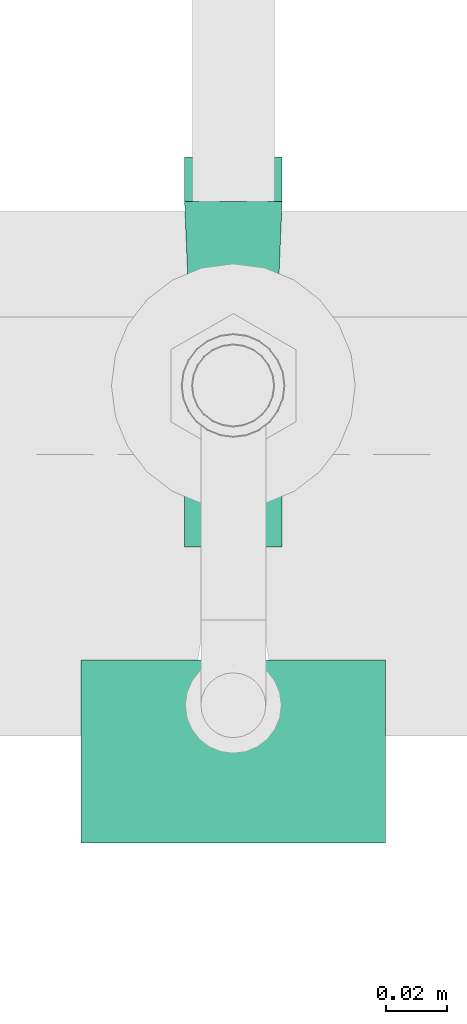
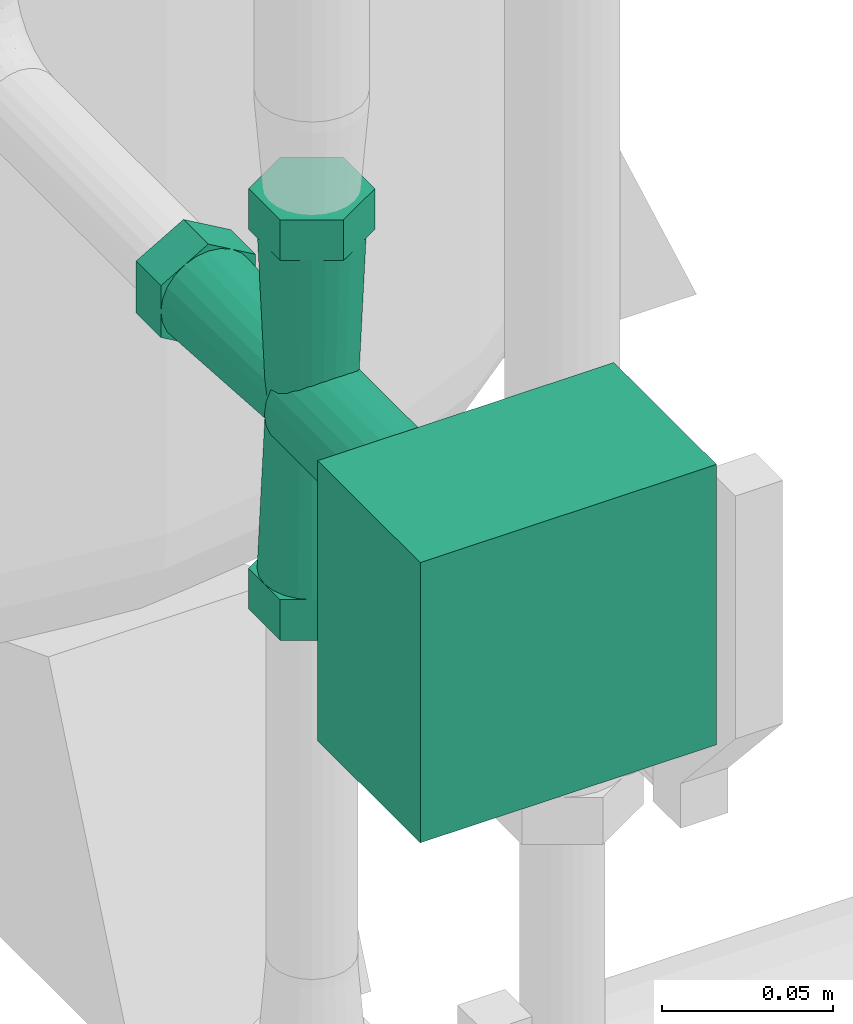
# One storey, part 103 of 374: 1 flow controller.
"""IFC2X3 building model written with IfcOpenShell, lengths in metres."""

from ifc_helpers import new_model, si_unit, direction, origin, place, context, subcontext, project, spatial, open_shell, surface_model, source, transform, mapped, element, save


model = new_model("IFC2X3")

# Units and contexts
model_context = context("Model", 3, precision=1e-05, world=origin(), true_north=direction((-0.4480736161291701, 0.8939966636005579)))
body_context = subcontext(model_context, "Body", "Model", "MODEL_VIEW")
ifc_project = project(units=[si_unit("LENGTHUNIT", "METRE"), si_unit("AREAUNIT", "SQUARE_METRE"), si_unit("VOLUMEUNIT", "CUBIC_METRE"), si_unit("PLANEANGLEUNIT", "RADIAN"), si_unit("THERMODYNAMICTEMPERATUREUNIT", "KELVIN"), si_unit("MASSUNIT", "GRAM", prefix="KILO"), si_unit("TIMEUNIT", "SECOND")], contexts=[model_context])

# Site, building, storey
site_placement = place(None, origin())
site = spatial("IfcSite", under=ifc_project, at=site_placement, Name="Site 1", CompositionType="ELEMENT")
building_placement = place(site_placement, origin())
building = spatial("IfcBuilding", under=site, at=building_placement, Name="Undefined", CompositionType="ELEMENT")
storey_placement = place(building_placement, origin())
storey = spatial("IfcBuildingStorey", under=building, at=storey_placement, Name="Rez de chauss\x8ee", CompositionType="ELEMENT", Elevation=0.0)

# Flow controller
shared_shape = source(origin(), body_context, "Body", "SurfaceModel", [
    surface_model("IfcFaceBasedSurfaceModel", [(0.0, 0.09999999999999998, 0.0), (0.0, 0.0, 0.0), (0.10000000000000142, 8.8817842e-16, 1.776356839e-15), (0.10000000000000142, 0.09999999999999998, 0.0), (0.10000000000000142, 0.0, 0.05999999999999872), (0.10000000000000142, 0.09999999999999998, 0.05999999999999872), (0.0, 0.0, 0.05999999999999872), (0.0, 0.09999999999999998, 0.05999999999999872), (0.03399999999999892, 0.125, -0.0992376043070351), (0.03399999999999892, 0.125, -0.0807623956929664), (0.03399999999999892, 0.11050000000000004, -0.0807623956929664), (0.03399999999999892, 0.11050000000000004, -0.0992376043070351), (0.05000000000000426, 0.125, -0.10847520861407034), (0.05000000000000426, 0.11050000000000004, -0.10847520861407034), (0.0660000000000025, 0.125, -0.0992376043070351), (0.0660000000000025, 0.11050000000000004, -0.0992376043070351), (0.0660000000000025, 0.125, -0.0807623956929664), (0.0660000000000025, 0.11050000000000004, -0.0807623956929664), (0.05000000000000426, 0.125, -0.07152479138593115), (0.05000000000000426, 0.11050000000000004, -0.07152479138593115), (0.05000000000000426, 0.11050000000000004, -0.10600000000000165), (0.054141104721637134, 0.11050000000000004, -0.10545481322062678), (0.05348111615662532, 0.04999999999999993, -0.10299170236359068), (0.05000000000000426, 0.04999999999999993, -0.10345000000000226), (0.05799999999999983, 0.11050000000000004, -0.10385640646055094), (0.056725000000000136, 0.04999999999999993, -0.10164804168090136), (0.061313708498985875, 0.11050000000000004, -0.10131370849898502), (0.05951058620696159, 0.04999999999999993, -0.09951058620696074), (0.0638564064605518, 0.11050000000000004, -0.09800000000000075), (0.06164804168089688, 0.04999999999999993, -0.09672500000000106), (0.06545481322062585, 0.11050000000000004, -0.09414110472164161), (0.06299170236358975, 0.04999999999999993, -0.09348111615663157), (0.0660000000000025, 0.11050000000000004, -0.09000000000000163), (0.06344999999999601, 0.04999999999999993, -0.09000000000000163), (0.06545481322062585, 0.11050000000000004, -0.08585889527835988), (0.06299170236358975, 0.04999999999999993, -0.0865188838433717), (0.0638564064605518, 0.11050000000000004, -0.08200000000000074), (0.06164804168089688, 0.04999999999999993, -0.08327500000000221), (0.061313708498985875, 0.11050000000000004, -0.07868629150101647), (0.05951058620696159, 0.04999999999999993, -0.08048941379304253), (0.05799999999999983, 0.11050000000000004, -0.07614359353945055), (0.056725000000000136, 0.04999999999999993, -0.07835195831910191), (0.054141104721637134, 0.11050000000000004, -0.07454518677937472), (0.05348111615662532, 0.04999999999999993, -0.07700829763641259), (0.05000000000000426, 0.11050000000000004, -0.07400000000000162), (0.05000000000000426, 0.04999999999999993, -0.07655000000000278), (0.04585889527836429, 0.11050000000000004, -0.07454518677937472), (0.046518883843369, 0.04999999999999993, -0.07700829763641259), (0.04200000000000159, 0.11050000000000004, -0.07614359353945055), (0.043275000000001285, 0.04999999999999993, -0.07835195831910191), (0.038686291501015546, 0.11050000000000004, -0.07868629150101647), (0.04048941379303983, 0.04999999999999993, -0.08048941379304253), (0.036143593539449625, 0.11050000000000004, -0.08200000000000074), (0.038351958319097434, 0.04999999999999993, -0.08327500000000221), (0.03454518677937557, 0.11050000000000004, -0.08585889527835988), (0.03700829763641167, 0.04999999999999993, -0.0865188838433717), (0.03399999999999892, 0.11050000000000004, -0.09000000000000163), (0.036549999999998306, 0.04999999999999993, -0.09000000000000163), (0.03454518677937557, 0.11050000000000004, -0.09414110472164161), (0.03700829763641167, 0.04999999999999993, -0.09348111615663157), (0.036143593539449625, 0.11050000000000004, -0.09800000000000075), (0.038351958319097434, 0.04999999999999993, -0.09672500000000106), (0.038686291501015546, 0.11050000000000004, -0.10131370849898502), (0.04048941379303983, 0.04999999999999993, -0.09951058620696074), (0.04200000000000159, 0.11050000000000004, -0.10385640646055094), (0.043275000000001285, 0.04999999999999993, -0.10164804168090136), (0.04585889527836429, 0.11050000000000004, -0.10545481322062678), (0.046518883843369, 0.04999999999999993, -0.10299170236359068), (0.054141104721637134, -0.010500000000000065, -0.105454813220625), (0.04999999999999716, -0.010500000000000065, -0.10600000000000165), (0.057999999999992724, -0.010500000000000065, -0.10385640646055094), (0.06131370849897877, -0.010500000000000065, -0.10131370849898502), (0.06385640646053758, -0.010500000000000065, -0.09800000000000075), (0.06545481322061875, -0.010500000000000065, -0.09414110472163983), (0.06599999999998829, -0.010500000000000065, -0.09000000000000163), (0.06545481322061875, -0.010500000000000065, -0.08585889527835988), (0.06385640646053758, -0.010500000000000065, -0.08199999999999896), (0.06131370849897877, -0.010500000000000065, -0.0786862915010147), (0.057999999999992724, -0.010500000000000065, -0.07614359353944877), (0.054141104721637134, -0.010500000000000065, -0.07454518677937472), (0.04999999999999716, -0.010500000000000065, -0.07399999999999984), (0.045858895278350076, -0.010500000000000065, -0.07454518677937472), (0.041999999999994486, -0.010500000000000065, -0.07614359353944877), (0.03868629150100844, -0.010500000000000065, -0.0786862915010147), (0.03614359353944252, -0.010500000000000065, -0.08199999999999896), (0.034545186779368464, -0.010500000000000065, -0.08585889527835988), (0.033999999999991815, -0.010500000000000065, -0.09000000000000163), (0.034545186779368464, -0.010500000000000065, -0.09414110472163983), (0.03614359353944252, -0.010500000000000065, -0.09800000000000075), (0.03868629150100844, -0.010500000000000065, -0.10131370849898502), (0.041999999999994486, -0.010500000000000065, -0.10385640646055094), (0.045858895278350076, -0.010500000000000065, -0.105454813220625), (0.03399999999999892, -0.010500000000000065, -0.0992376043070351), (0.03399999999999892, -0.010500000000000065, -0.0807623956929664), (0.03399999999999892, -0.025000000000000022, -0.0807623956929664), (0.03399999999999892, -0.025000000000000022, -0.0992376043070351), (0.05000000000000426, -0.010500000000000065, -0.10847520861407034), (0.05000000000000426, -0.025000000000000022, -0.10847520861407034), (0.0660000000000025, -0.010500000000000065, -0.0992376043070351), (0.0660000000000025, -0.025000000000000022, -0.0992376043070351), (0.0660000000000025, -0.010500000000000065, -0.0807623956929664), (0.0660000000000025, -0.025000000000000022, -0.0807623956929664), (0.05000000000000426, -0.010500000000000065, -0.07152479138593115), (0.05000000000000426, -0.025000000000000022, -0.07152479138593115), (0.0660000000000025, 0.04999999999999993, -0.09000000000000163), (0.06545481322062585, 0.054141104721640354, -0.09000000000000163), (0.06545481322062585, 0.054141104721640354, -0.03700000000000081), (0.0660000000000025, 0.04999999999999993, -0.03700000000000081), (0.0638564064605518, 0.05799999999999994, -0.09000000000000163), (0.0638564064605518, 0.05799999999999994, -0.03700000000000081), (0.061313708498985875, 0.061313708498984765, -0.09000000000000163), (0.061313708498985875, 0.061313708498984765, -0.03700000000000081), (0.05799999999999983, 0.06385640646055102, -0.09000000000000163), (0.05799999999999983, 0.06385640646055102, -0.03700000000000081), (0.054141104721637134, 0.06545481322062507, -0.09000000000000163), (0.054141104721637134, 0.06545481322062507, -0.03700000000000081), (0.05000000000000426, 0.06599999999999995, -0.09000000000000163), (0.05000000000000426, 0.06599999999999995, -0.03700000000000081), (0.04585889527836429, 0.06545481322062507, -0.09000000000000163), (0.04585889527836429, 0.06545481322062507, -0.03700000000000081), (0.04200000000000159, 0.06385640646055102, -0.09000000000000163), (0.04200000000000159, 0.06385640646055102, -0.03700000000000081), (0.038686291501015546, 0.061313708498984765, -0.09000000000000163), (0.038686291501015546, 0.061313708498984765, -0.03700000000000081), (0.036143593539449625, 0.05799999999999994, -0.09000000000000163), (0.036143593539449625, 0.05799999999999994, -0.03700000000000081), (0.03454518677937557, 0.054141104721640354, -0.09000000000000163), (0.03454518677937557, 0.054141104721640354, -0.03700000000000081), (0.03399999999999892, 0.04999999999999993, -0.09000000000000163), (0.03399999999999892, 0.04999999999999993, -0.03700000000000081), (0.03454518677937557, 0.045858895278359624, -0.09000000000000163), (0.03454518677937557, 0.045858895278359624, -0.03700000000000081), (0.036143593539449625, 0.04200000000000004, -0.09000000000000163), (0.036143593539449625, 0.04200000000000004, -0.03700000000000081), (0.038686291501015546, 0.03868629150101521, -0.09000000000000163), (0.038686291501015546, 0.03868629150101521, -0.03700000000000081), (0.04200000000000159, 0.03614359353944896, -0.09000000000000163), (0.04200000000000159, 0.03614359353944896, -0.03700000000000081), (0.04585889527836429, 0.0345451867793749, -0.09000000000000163), (0.04585889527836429, 0.0345451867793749, -0.03700000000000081), (0.05000000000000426, 0.03400000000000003, -0.09000000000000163), (0.05000000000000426, 0.03400000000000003, -0.03700000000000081), (0.054141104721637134, 0.0345451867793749, -0.09000000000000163), (0.054141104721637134, 0.0345451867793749, -0.03700000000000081), (0.05799999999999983, 0.03614359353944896, -0.09000000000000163), (0.05799999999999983, 0.03614359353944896, -0.03700000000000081), (0.061313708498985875, 0.03868629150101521, -0.09000000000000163), (0.061313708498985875, 0.03868629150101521, -0.03700000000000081), (0.0638564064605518, 0.04200000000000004, -0.09000000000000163), (0.0638564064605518, 0.04200000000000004, -0.03700000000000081), (0.06545481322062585, 0.045858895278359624, -0.09000000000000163), (0.06545481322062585, 0.045858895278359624, -0.03700000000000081), (0.05000000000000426, 0.04999999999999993, -0.09000000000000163), (0.05000000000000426, 0.04999999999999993, -0.03700000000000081), (0.051600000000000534, 0.04999999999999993, -0.03700000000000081), (0.051131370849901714, 0.051131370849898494, -0.03700000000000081), (0.051131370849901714, 0.051131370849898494, 0.0), (0.051600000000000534, 0.04999999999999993, 0.0), (0.05000000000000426, 0.05159999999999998, -0.03700000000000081), (0.05000000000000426, 0.05159999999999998, 0.0), (0.04886862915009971, 0.051131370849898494, -0.03700000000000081), (0.04886862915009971, 0.051131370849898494, 0.0), (0.04840000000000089, 0.04999999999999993, -0.03700000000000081), (0.04840000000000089, 0.04999999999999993, 0.0), (0.04886862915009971, 0.048868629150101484, -0.03700000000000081), (0.04886862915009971, 0.048868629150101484, 0.0), (0.05000000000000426, 0.0484, -0.03700000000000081), (0.05000000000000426, 0.0484, 0.0), (0.051131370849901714, 0.048868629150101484, -0.03700000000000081), (0.051131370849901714, 0.048868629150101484, 0.0), (0.05000000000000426, 0.04999999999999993, 0.0), (0.05000000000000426, 0.06345, -0.09000000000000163), (0.053481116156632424, 0.06299170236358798, -0.09000000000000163), (0.054141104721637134, 0.06545481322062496, -0.15050000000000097), (0.04999999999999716, 0.06599999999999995, -0.15050000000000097), (0.056725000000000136, 0.06164804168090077, -0.09000000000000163), (0.057999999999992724, 0.06385640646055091, -0.15050000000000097), (0.05951058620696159, 0.05951058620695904, -0.09000000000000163), (0.06131370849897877, 0.061313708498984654, -0.15050000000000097), (0.06164804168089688, 0.056725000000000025, -0.09000000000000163), (0.06385640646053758, 0.05799999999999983, -0.15050000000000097), (0.06299170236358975, 0.05348111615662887, -0.09000000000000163), (0.06545481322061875, 0.05414110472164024, -0.15050000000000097), (0.06599999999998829, 0.04999999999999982, -0.15050000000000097), (0.06299170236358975, 0.046518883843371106, -0.09000000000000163), (0.06545481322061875, 0.04585889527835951, -0.15050000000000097), (0.06164804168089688, 0.04327499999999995, -0.09000000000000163), (0.06385640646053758, 0.041999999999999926, -0.15050000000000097), (0.05951058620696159, 0.04048941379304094, -0.09000000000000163), (0.06131370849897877, 0.0386862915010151, -0.15050000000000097), (0.056725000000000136, 0.03835195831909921, -0.09000000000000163), (0.057999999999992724, 0.03614359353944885, -0.15050000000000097), (0.053481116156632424, 0.037008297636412, -0.09000000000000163), (0.054141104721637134, 0.03454518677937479, -0.15050000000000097), (0.05000000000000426, 0.03654999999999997, -0.09000000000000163), (0.04999999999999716, 0.03399999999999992, -0.15050000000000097), (0.046518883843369, 0.037008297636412, -0.09000000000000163), (0.045858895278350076, 0.03454518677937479, -0.15050000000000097), (0.043275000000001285, 0.03835195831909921, -0.09000000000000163), (0.041999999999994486, 0.03614359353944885, -0.15050000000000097), (0.04048941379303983, 0.04048941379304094, -0.09000000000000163), (0.03868629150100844, 0.0386862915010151, -0.15050000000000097), (0.03835195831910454, 0.04327499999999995, -0.09000000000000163), (0.03614359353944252, 0.041999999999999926, -0.15050000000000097), (0.03700829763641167, 0.046518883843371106, -0.09000000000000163), (0.034545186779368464, 0.04585889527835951, -0.15050000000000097), (0.033999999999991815, 0.04999999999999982, -0.15050000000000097), (0.03700829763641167, 0.05348111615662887, -0.09000000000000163), (0.034545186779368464, 0.05414110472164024, -0.15050000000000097), (0.03835195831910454, 0.056725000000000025, -0.09000000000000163), (0.03614359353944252, 0.05799999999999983, -0.15050000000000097), (0.04048941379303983, 0.05951058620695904, -0.09000000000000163), (0.03868629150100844, 0.061313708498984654, -0.15050000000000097), (0.043275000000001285, 0.06164804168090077, -0.09000000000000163), (0.041999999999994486, 0.06385640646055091, -0.15050000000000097), (0.046518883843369, 0.06299170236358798, -0.09000000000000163), (0.045858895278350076, 0.06545481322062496, -0.15050000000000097), (0.03399999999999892, 0.040762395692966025, -0.15050000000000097), (0.05000000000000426, 0.031524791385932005, -0.15050000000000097), (0.05000000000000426, 0.031524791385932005, -0.16500000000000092), (0.03399999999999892, 0.040762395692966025, -0.16500000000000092), (0.03399999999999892, 0.05923760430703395, -0.15050000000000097), (0.03399999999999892, 0.05923760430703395, -0.16500000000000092), (0.05000000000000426, 0.06847520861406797, -0.15050000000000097), (0.05000000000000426, 0.06847520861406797, -0.16500000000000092), (0.0660000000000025, 0.05923760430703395, -0.15050000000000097), (0.0660000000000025, 0.05923760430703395, -0.16500000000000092), (0.0660000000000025, 0.040762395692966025, -0.15050000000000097), (0.0660000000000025, 0.040762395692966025, -0.16500000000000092)], [open_shell([[[0, 1, 2, 3]], [[3, 2, 4, 5]], [[5, 4, 6, 7]], [[7, 6, 1, 0]], [[0, 3, 5, 7]], [[6, 4, 2, 1]], [[8, 9, 10, 11]], [[12, 8, 11, 13]], [[14, 12, 13, 15]], [[16, 14, 15, 17]], [[18, 16, 17, 19]], [[9, 18, 19, 10]], [[9, 8, 12]], [[9, 12, 14]], [[9, 14, 16]], [[9, 16, 18]], [[10, 13, 11]], [[10, 15, 13]], [[10, 17, 15]], [[10, 19, 17]], [[20, 21, 22, 23]], [[21, 24, 25, 22]], [[24, 26, 27, 25]], [[26, 28, 29, 27]], [[28, 30, 31, 29]], [[30, 32, 33, 31]], [[32, 34, 35, 33]], [[34, 36, 37, 35]], [[36, 38, 39, 37]], [[38, 40, 41, 39]], [[40, 42, 43, 41]], [[42, 44, 45, 43]], [[44, 46, 47, 45]], [[46, 48, 49, 47]], [[48, 50, 51, 49]], [[50, 52, 53, 51]], [[52, 54, 55, 53]], [[54, 56, 57, 55]], [[56, 58, 59, 57]], [[58, 60, 61, 59]], [[60, 62, 63, 61]], [[62, 64, 65, 63]], [[64, 66, 67, 65]], [[66, 20, 23, 67]], [[23, 22, 68, 69]], [[22, 25, 70, 68]], [[25, 27, 71, 70]], [[27, 29, 72, 71]], [[29, 31, 73, 72]], [[31, 33, 74, 73]], [[33, 35, 75, 74]], [[35, 37, 76, 75]], [[37, 39, 77, 76]], [[39, 41, 78, 77]], [[41, 43, 79, 78]], [[43, 45, 80, 79]], [[45, 47, 81, 80]], [[47, 49, 82, 81]], [[49, 51, 83, 82]], [[51, 53, 84, 83]], [[53, 55, 85, 84]], [[55, 57, 86, 85]], [[57, 59, 87, 86]], [[59, 61, 88, 87]], [[61, 63, 89, 88]], [[63, 65, 90, 89]], [[65, 67, 91, 90]], [[67, 23, 69, 91]], [[92, 93, 94, 95]], [[96, 92, 95, 97]], [[98, 96, 97, 99]], [[100, 98, 99, 101]], [[102, 100, 101, 103]], [[93, 102, 103, 94]], [[93, 92, 96]], [[93, 96, 98]], [[93, 98, 100]], [[93, 100, 102]], [[94, 97, 95]], [[94, 99, 97]], [[94, 101, 99]], [[94, 103, 101]], [[104, 105, 106, 107]], [[105, 108, 109, 106]], [[108, 110, 111, 109]], [[110, 112, 113, 111]], [[112, 114, 115, 113]], [[114, 116, 117, 115]], [[116, 118, 119, 117]], [[118, 120, 121, 119]], [[120, 122, 123, 121]], [[122, 124, 125, 123]], [[124, 126, 127, 125]], [[126, 128, 129, 127]], [[128, 130, 131, 129]], [[130, 132, 133, 131]], [[132, 134, 135, 133]], [[134, 136, 137, 135]], [[136, 138, 139, 137]], [[138, 140, 141, 139]], [[140, 142, 143, 141]], [[142, 144, 145, 143]], [[144, 146, 147, 145]], [[146, 148, 149, 147]], [[148, 150, 151, 149]], [[150, 104, 107, 151]], [[152, 105, 104]], [[152, 108, 105]], [[152, 110, 108]], [[152, 112, 110]], [[152, 114, 112]], [[152, 116, 114]], [[152, 118, 116]], [[152, 120, 118]], [[152, 122, 120]], [[152, 124, 122]], [[152, 126, 124]], [[152, 128, 126]], [[152, 130, 128]], [[152, 132, 130]], [[152, 134, 132]], [[152, 136, 134]], [[152, 138, 136]], [[152, 140, 138]], [[152, 142, 140]], [[152, 144, 142]], [[152, 146, 144]], [[152, 148, 146]], [[152, 150, 148]], [[152, 104, 150]], [[153, 151, 107]], [[153, 149, 151]], [[153, 147, 149]], [[153, 145, 147]], [[153, 143, 145]], [[153, 141, 143]], [[153, 139, 141]], [[153, 137, 139]], [[153, 135, 137]], [[153, 133, 135]], [[153, 131, 133]], [[153, 129, 131]], [[153, 127, 129]], [[153, 125, 127]], [[153, 123, 125]], [[153, 121, 123]], [[153, 119, 121]], [[153, 117, 119]], [[153, 115, 117]], [[153, 113, 115]], [[153, 111, 113]], [[153, 109, 111]], [[153, 106, 109]], [[153, 107, 106]], [[154, 155, 156, 157]], [[155, 158, 159, 156]], [[158, 160, 161, 159]], [[160, 162, 163, 161]], [[162, 164, 165, 163]], [[164, 166, 167, 165]], [[166, 168, 169, 167]], [[168, 154, 157, 169]], [[170, 169, 157]], [[170, 167, 169]], [[170, 165, 167]], [[170, 163, 165]], [[170, 161, 163]], [[170, 159, 161]], [[170, 156, 159]], [[170, 157, 156]], [[171, 172, 173, 174]], [[172, 175, 176, 173]], [[175, 177, 178, 176]], [[177, 179, 180, 178]], [[179, 181, 182, 180]], [[181, 33, 183, 182]], [[33, 184, 185, 183]], [[184, 186, 187, 185]], [[186, 188, 189, 187]], [[188, 190, 191, 189]], [[190, 192, 193, 191]], [[192, 194, 195, 193]], [[194, 196, 197, 195]], [[196, 198, 199, 197]], [[198, 200, 201, 199]], [[200, 202, 203, 201]], [[202, 204, 205, 203]], [[204, 57, 206, 205]], [[57, 207, 208, 206]], [[207, 209, 210, 208]], [[209, 211, 212, 210]], [[211, 213, 214, 212]], [[213, 215, 216, 214]], [[215, 171, 174, 216]], [[217, 218, 219, 220]], [[221, 217, 220, 222]], [[223, 221, 222, 224]], [[225, 223, 224, 226]], [[227, 225, 226, 228]], [[218, 227, 228, 219]], [[218, 217, 221]], [[218, 221, 223]], [[218, 223, 225]], [[218, 225, 227]], [[219, 222, 220]], [[219, 224, 222]], [[219, 226, 224]], [[219, 228, 226]]])]),
])
flow_controller_placement = place(storey_placement, origin())
element("IfcFlowController", 1, at=flow_controller_placement, inside=storey, Name="Vanne 3 voies", ObjectType="Vanne 3 voies", context=body_context, shape_type="MappedRepresentation", body=[
    mapped(shared_shape, transform((53.30756201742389, 10.628037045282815, 0.8263512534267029), x_axis=(-1.0, 0.0, 0.0), y_axis=(0.0, 0.0, -1.0), z_axis=(0.0, -1.0, 0.0))),
])

save(model, "model.ifc")
